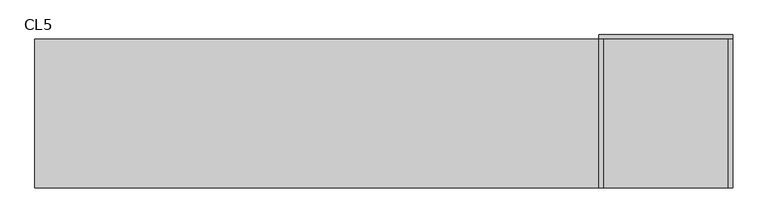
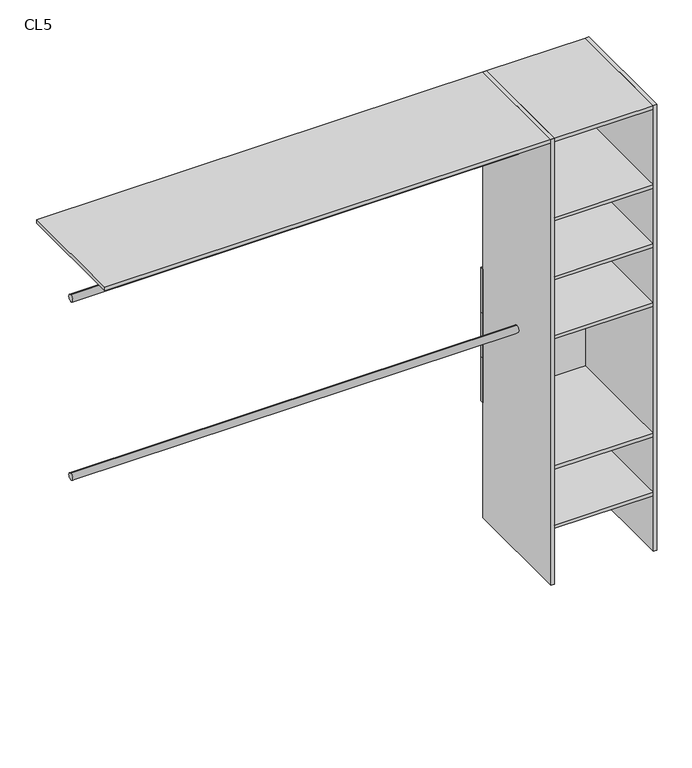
"""IFC4 building model written with IfcOpenShell, lengths in millimetres: furniture geometry, Closet 1estantes-1tubos_sin laterales : CL5."""

from ifc_helpers import new_model, si_unit, point, frame, frame_2d, origin, origin_with_axes, place, context, project, spatial, polyline, circle_curve, trimmed, segment, composite_curve, outline, extrude, source, transform, mapped, element, save


def cl5_c90b7353(model_context):
    return source(origin(), model_context, "Body", "SweptSolid", [
        extrude(outline(polyline([(225.0, -100.0), (225.0, -600.0), (210.0, -600.0), (210.0, -100.0), (225.0, -100.0)])), origin_with_axes(), (0.0, 0.0, 1.0), 2000.0),
        extrude(outline(polyline([(-210.0, -100.0), (-210.0, -600.0), (-225.0, -600.0), (-225.0, -100.0), (-210.0, -100.0)])), origin_with_axes(), (0.0, 0.0, 1.0), 2000.0),
        extrude(outline(polyline([(225.0, -100.0), (-225.0, -100.0), (-225.0, -85.0), (225.0, -85.0), (225.0, -100.0)])), frame((0.0, 0.0, 915.0), z_axis=(0.0, 0.0, 1.0), x_axis=(1.0, 0.0, 0.0)), (0.0, 0.0, 1.0), 200.0),
        extrude(outline(polyline([(225.0, -100.0), (-225.0, -100.0), (-225.0, -85.0), (225.0, -85.0), (225.0, -100.0)])), frame((0.0, 0.0, 715.0), z_axis=(0.0, 0.0, 1.0), x_axis=(1.0, 0.0, 0.0)), (0.0, 0.0, 1.0), 200.0),
        extrude(outline(polyline([(225.0, -100.0), (-225.0, -100.0), (-225.0, -85.0), (225.0, -85.0), (225.0, -100.0)])), frame((0.0, 0.0, 515.0), z_axis=(0.0, 0.0, 1.0), x_axis=(1.0, 0.0, 0.0)), (0.0, 0.0, 1.0), 200.0),
        extrude(outline(polyline([(210.0, -100.0), (210.0, -600.0), (-210.0, -600.0), (-210.0, -100.0), (210.0, -100.0)])), frame((0.0, 0.0, 1100.0), z_axis=(0.0, 0.0, 1.0), x_axis=(1.0, 0.0, 0.0)), (0.0, 0.0, 1.0), 15.0),
        extrude(outline(composite_curve([segment(trimmed(circle_curve(frame_2d((-350.0, 1000.0)), 15.0), [point((-350.0, 1015.0))], [point((-350.0, 985.0))], False, "CARTESIAN"), True, "CONTINUOUS"), segment(trimmed(circle_curve(frame_2d((-350.0, 1000.0)), 15.0), [point((-350.0, 985.0))], [point((-350.0, 1015.0))], False, "CARTESIAN"), True, "CONTINUOUS")], self_intersect=False)), frame((-2120.0, 0.0, 0.0), z_axis=(1.0, 0.0, 0.0), x_axis=(0.0, 1.0, 0.0)), (0.0, 0.0, 1.0), 1895.0),
        extrude(outline(composite_curve([segment(trimmed(circle_curve(frame_2d((-350.0, 1800.0)), 15.0), [point((-350.0, 1815.0))], [point((-350.0, 1785.0))], False, "CARTESIAN"), True, "CONTINUOUS"), segment(trimmed(circle_curve(frame_2d((-350.0, 1800.0)), 15.0), [point((-350.0, 1785.0))], [point((-350.0, 1815.0))], False, "CARTESIAN"), True, "CONTINUOUS")], self_intersect=False)), frame((-2120.0, 0.0, 0.0), z_axis=(1.0, 0.0, 0.0), x_axis=(0.0, 1.0, 0.0)), (0.0, 0.0, 1.0), 1895.0),
        extrude(outline(polyline([(210.0, -100.0), (210.0, -600.0), (-210.0, -600.0), (-210.0, -100.0), (210.0, -100.0)])), frame((0.0, 0.0, 250.0), z_axis=(0.0, 0.0, 1.0), x_axis=(1.0, 0.0, 0.0)), (0.0, 0.0, 1.0), 15.0),
        extrude(outline(polyline([(210.0, -100.0), (210.0, -600.0), (-210.0, -600.0), (-210.0, -100.0), (210.0, -100.0)])), frame((0.0, 0.0, 515.0), z_axis=(0.0, 0.0, 1.0), x_axis=(1.0, 0.0, 0.0)), (0.0, 0.0, 1.0), 15.0),
        extrude(outline(polyline([(210.0, -100.0), (210.0, -600.0), (-210.0, -600.0), (-210.0, -100.0), (210.0, -100.0)])), frame((0.0, 0.0, 1365.0), z_axis=(0.0, 0.0, 1.0), x_axis=(1.0, 0.0, 0.0)), (0.0, 0.0, 1.0), 15.0),
        extrude(outline(polyline([(210.0, -100.0), (210.0, -600.0), (-210.0, -600.0), (-210.0, -100.0), (210.0, -100.0)])), frame((0.0, 0.0, 1630.0), z_axis=(0.0, 0.0, 1.0), x_axis=(1.0, 0.0, 0.0)), (0.0, 0.0, 1.0), 15.0),
        extrude(outline(polyline([(-210.0, -100.0), (-210.0, -600.0), (-2120.0, -600.0), (-2120.0, -100.0), (-210.0, -100.0)])), frame((0.0, 0.0, 1985.0), z_axis=(0.0, 0.0, 1.0), x_axis=(1.0, 0.0, 0.0)), (0.0, 0.0, 1.0), 15.0),
        extrude(outline(polyline([(210.0, -100.0), (210.0, -600.0), (-210.0, -600.0), (-210.0, -100.0), (210.0, -100.0)])), frame((0.0, 0.0, 1985.0), z_axis=(0.0, 0.0, 1.0), x_axis=(1.0, 0.0, 0.0)), (0.0, 0.0, 1.0), 15.0),
    ])


if __name__ == "__main__":
    model = new_model("IFC4")
    model_context = context("Model", 3, world=origin())
    ifc_project = project(units=[si_unit("LENGTHUNIT", "METRE", prefix="MILLI")], contexts=[model_context])
    site = spatial("IfcSite", under=ifc_project)
    building = spatial("IfcBuilding", under=site)
    placement = place(None, origin())
    cl5_shape = cl5_c90b7353(model_context)
    element("IfcFurniture", 1, ObjectType="Closet 1estantes-1tubos_sin laterales : CL5", at=placement, inside=building, context=model_context, shape_type="MappedRepresentation", body=[
        mapped(cl5_shape, transform((0.0, 0.0, 0.0), x_axis=(1.0, 0.0, 0.0), y_axis=(0.0, 1.0, 0.0), z_axis=(0.0, 0.0, 1.0))),
    ])
    save(model, "model.ifc")
